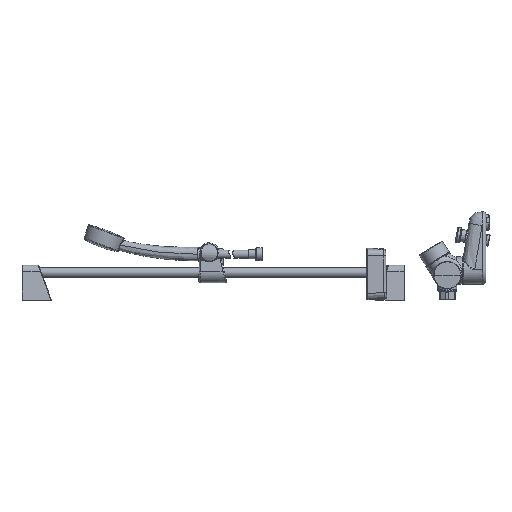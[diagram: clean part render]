
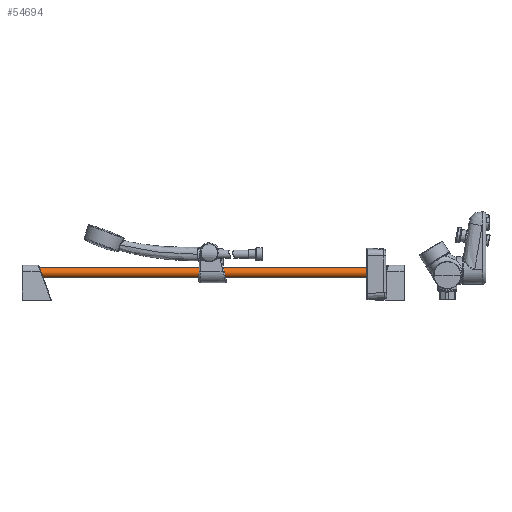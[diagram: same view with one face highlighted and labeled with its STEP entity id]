
A CAD part, left-side view. The second image highlights one B-rep face of the part: STEP entity #54694.
In plain terms, the highlighted cylindrical face has radius 8.9 mm (diameter 17.8 mm), a partial arc.
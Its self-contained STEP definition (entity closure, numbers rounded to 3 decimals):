
#7106 = VERTEX_POINT ( 'NONE', #27370 ) ;
#8407 = EDGE_CURVE ( 'NONE', #23130, #14587, #31929, .T. ) ;
#8918 = CARTESIAN_POINT ( 'NONE',  ( 0., 101.562, 84.4 ) ) ;
#10854 = FACE_OUTER_BOUND ( 'NONE', #41970, .T. ) ;
#12879 = CARTESIAN_POINT ( 'NONE',  ( 0., 755.562, 66.6 ) ) ;
#14587 = VERTEX_POINT ( 'NONE', #12879 ) ;
#15120 = EDGE_CURVE ( 'NONE', #14587, #7106, #34802, .T. ) ;
#15302 = CARTESIAN_POINT ( 'NONE',  ( 0., 101.562, 66.6 ) ) ;
#22582 = CIRCLE ( 'NONE', #41830, 8.9 ) ;
#23130 = VERTEX_POINT ( 'NONE', #15302 ) ;
#23696 = DIRECTION ( 'NONE',  ( 0., 1., 0. ) ) ;
#26929 = CARTESIAN_POINT ( 'NONE',  ( 0., 371.562, 84.4 ) ) ;
#27370 = CARTESIAN_POINT ( 'NONE',  ( 0., 755.562, 84.4 ) ) ;
#28928 = CARTESIAN_POINT ( 'NONE',  ( 0., 101.562, 75.5 ) ) ;
#29295 = DIRECTION ( 'NONE',  ( 0., 0., -1. ) ) ;
#29564 = EDGE_CURVE ( 'NONE', #23130, #46790, #22582, .T. ) ;
#30983 = AXIS2_PLACEMENT_3D ( 'NONE', #54638, #23696, #59857 ) ;
#31929 = LINE ( 'NONE', #31981, #59489 ) ;
#31981 = CARTESIAN_POINT ( 'NONE',  ( 0., 371.562, 66.6 ) ) ;
#33809 = EDGE_CURVE ( 'NONE', #46790, #7106, #60355, .T. ) ;
#34099 = DIRECTION ( 'NONE',  ( 0., 0., -1. ) ) ;
#34802 = CIRCLE ( 'NONE', #30983, 8.9 ) ;
#37140 = DIRECTION ( 'NONE',  ( 0., 1., 0. ) ) ;
#41722 = ORIENTED_EDGE ( 'NONE', *, *, #29564, .T. ) ;
#41830 = AXIS2_PLACEMENT_3D ( 'NONE', #28928, #65157, #34099 ) ;
#41970 = EDGE_LOOP ( 'NONE', ( #41722, #46420, #48217, #47500 ) ) ;
#46420 = ORIENTED_EDGE ( 'NONE', *, *, #33809, .T. ) ;
#46489 = VECTOR ( 'NONE', #63158, 1000. ) ;
#46790 = VERTEX_POINT ( 'NONE', #8918 ) ;
#47500 = ORIENTED_EDGE ( 'NONE', *, *, #8407, .F. ) ;
#48217 = ORIENTED_EDGE ( 'NONE', *, *, #15120, .F. ) ;
#50194 = CYLINDRICAL_SURFACE ( 'NONE', #63316, 8.9 ) ;
#54638 = CARTESIAN_POINT ( 'NONE',  ( 0., 755.562, 75.5 ) ) ;
#54694 = ADVANCED_FACE ( 'NONE', ( #10854 ), #50194, .T. ) ;
#55084 = CARTESIAN_POINT ( 'NONE',  ( 0., 371.562, 75.5 ) ) ;
#59489 = VECTOR ( 'NONE', #37140, 1000. ) ;
#59857 = DIRECTION ( 'NONE',  ( 0., 0., 1. ) ) ;
#60355 = LINE ( 'NONE', #26929, #46489 ) ;
#63158 = DIRECTION ( 'NONE',  ( 0., 1., 0. ) ) ;
#63316 = AXIS2_PLACEMENT_3D ( 'NONE', #55084, #65531, #29295 ) ;
#65157 = DIRECTION ( 'NONE',  ( 0., 1., 0. ) ) ;
#65531 = DIRECTION ( 'NONE',  ( 0., 1., 0. ) ) ;
